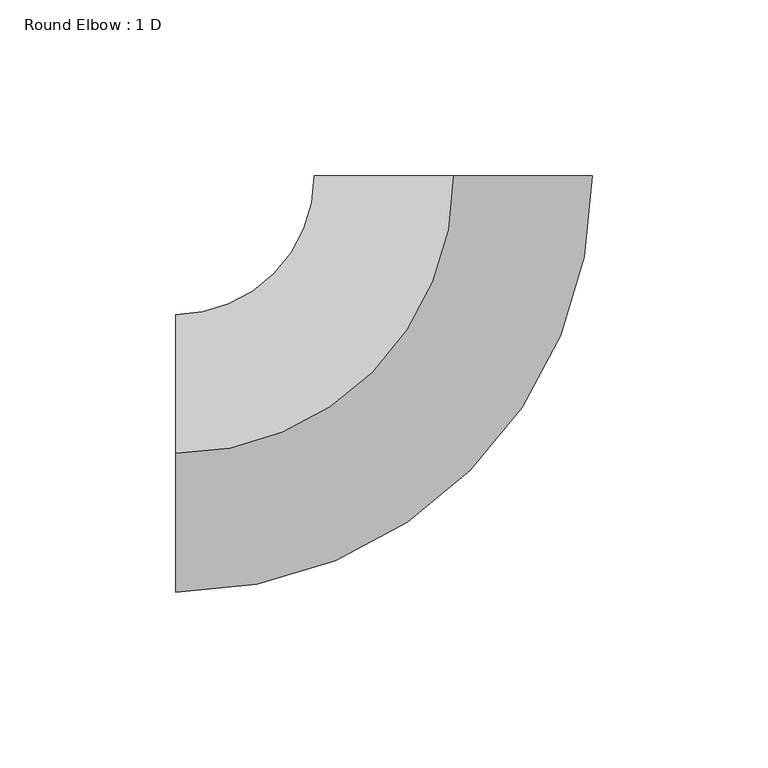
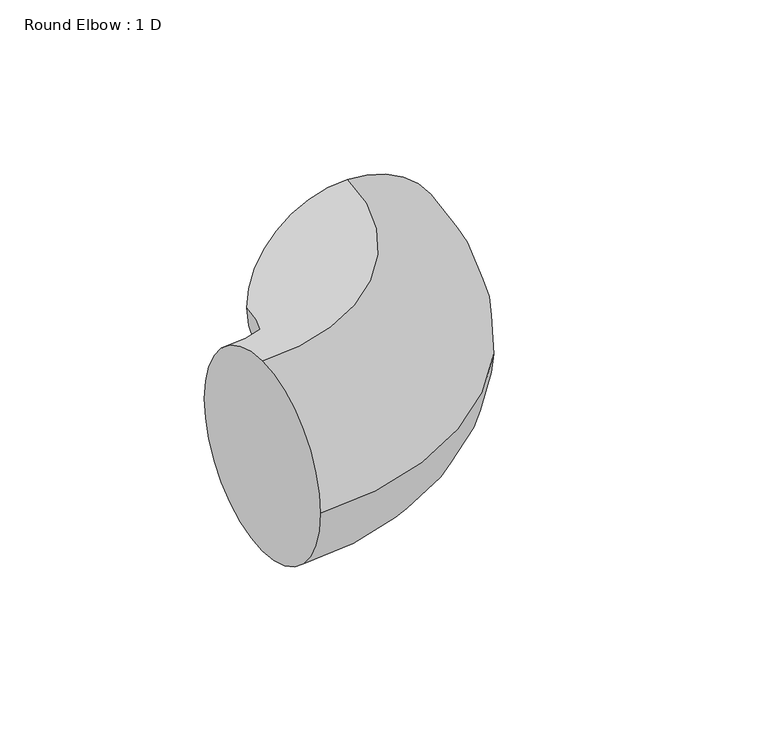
"""IFC4 building model written with IfcOpenShell, lengths in millimetres: duct fitting geometry, Round Elbow : 1 D."""

from ifc_helpers import new_model, si_unit, point, frame, origin, place, context, project, spatial, circle_curve, ellipse_curve, trimmed, source, transform, mapped, element, save
from ifc_brep_helpers import plane_surface, revolved_surface, advanced_brep


def round_elbow_1_d_8c5a454f(model_context):
    return source(origin(), model_context, "Body", "AdvancedBrep", [
        advanced_brep(
        [(-79.1765625, 0.0, 39.5882812), (-79.1765625, 39.5882812, 0.0), (-79.1765625, 0.0, -39.5882813), (-79.1765625, -39.5882813, 0.0), (0.0, 79.1765625, 39.5882812), (39.5882813, 79.1765625, 0.0), (0.0, 79.1765625, -39.5882813), (-39.5882812, 79.1765625, 0.0)],
        [
            (0, 1, circle_curve(frame((-79.1765625, 0.0, 0.0), z_axis=(-1.0, 0.0, 0.0), x_axis=(0.0, 1.0, 0.0)), 39.5882812)),
            (1, 2, circle_curve(frame((-79.1765625, 0.0, 0.0), z_axis=(-1.0, 0.0, 0.0), x_axis=(0.0, 1.0, 0.0)), 39.5882812)),
            (2, 3, circle_curve(frame((-79.1765625, 0.0, 0.0), z_axis=(-1.0, 0.0, 0.0), x_axis=(0.0, 1.0, 0.0)), 39.5882813)),
            (3, 0, circle_curve(frame((-79.1765625, 0.0, 0.0), z_axis=(-1.0, 0.0, 0.0), x_axis=(0.0, 1.0, 0.0)), 39.5882812)),
            (4, 5, circle_curve(frame((0.0, 79.1765625, 0.0), z_axis=(0.0, 1.0, 0.0), x_axis=(-1.0, 0.0, 0.0)), 39.5882812)),
            (5, 6, circle_curve(frame((0.0, 79.1765625, 0.0), z_axis=(0.0, 1.0, 0.0), x_axis=(-1.0, 0.0, 0.0)), 39.5882813)),
            (6, 7, circle_curve(frame((0.0, 79.1765625, 0.0), z_axis=(0.0, 1.0, 0.0), x_axis=(-1.0, 0.0, 0.0)), 39.5882812)),
            (7, 4, circle_curve(frame((0.0, 79.1765625, 0.0), z_axis=(0.0, 1.0, 0.0), x_axis=(-1.0, 0.0, 0.0)), 39.5882812)),
            (7, 1, circle_curve(frame((-79.1765625, 79.1765625, 0.0), z_axis=(0.0, 0.0, -1.0), x_axis=(0.0, -1.0, 0.0)), 39.5882813)),
            (0, 4, circle_curve(frame((-79.1765625, 79.1765625, 39.5882812), z_axis=(0.0, 0.0, 1.0), x_axis=(0.0, -1.0, 0.0)), 79.1765625)),
            (6, 2, circle_curve(frame((-79.1765625, 79.1765625, -39.5882813), z_axis=(0.0, 0.0, -1.0), x_axis=(0.0, -1.0, 0.0)), 79.1765625)),
            (5, 3, circle_curve(frame((-79.1765625, 79.1765625, 0.0), z_axis=(0.0, 0.0, -1.0), x_axis=(0.0, -1.0, 0.0)), 118.7648438)),
        ],
        [
            plane_surface(frame((-79.1765625, 0.0, 0.0), z_axis=(-1.0, 0.0, 0.0), x_axis=(0.0, 0.0, 1.0))),
            plane_surface(frame((0.0, 79.1765625, 0.0), z_axis=(0.0, 1.0, 0.0), x_axis=(0.0, 0.0, 1.0))),
            revolved_surface(trimmed(ellipse_curve(frame((-79.1765625, 0.0, 0.0), z_axis=(-1.0, 0.0, 0.0), x_axis=(0.0, 1.0, 0.0)), 39.5882812, 39.5882812), [point((-79.1765625, 0.0, 39.5882812))], [point((-79.1765625, 39.5882812, 0.0))], True, "CARTESIAN"), (-79.1765625, 79.1765625, 0.0), (0.0, 0.0, 1.0)),
            revolved_surface(trimmed(ellipse_curve(frame((-79.1765625, 0.0, 0.0), z_axis=(-1.0, 0.0, 0.0), x_axis=(0.0, 1.0, 0.0)), 39.5882812, 39.5882812), [point((-79.1765625, 39.5882812, 0.0))], [point((-79.1765625, 0.0, -39.5882813))], True, "CARTESIAN"), (-79.1765625, 79.1765625, 0.0), (0.0, 0.0, 1.0)),
            revolved_surface(trimmed(ellipse_curve(frame((-79.1765625, 0.0, 0.0), z_axis=(-1.0, 0.0, 0.0), x_axis=(0.0, 1.0, 0.0)), 39.5882813, 39.5882813), [point((-79.1765625, 0.0, -39.5882813))], [point((-79.1765625, -39.5882813, 0.0))], True, "CARTESIAN"), (-79.1765625, 79.1765625, 0.0), (0.0, 0.0, 1.0)),
            revolved_surface(trimmed(ellipse_curve(frame((-79.1765625, 0.0, 0.0), z_axis=(-1.0, 0.0, 0.0), x_axis=(0.0, 1.0, 0.0)), 39.5882812, 39.5882812), [point((-79.1765625, -39.5882813, 0.0))], [point((-79.1765625, 0.0, 39.5882812))], True, "CARTESIAN"), (-79.1765625, 79.1765625, 0.0), (0.0, 0.0, 1.0)),
        ],
        [
            (0, [[1, 2, 3, 4]]),
            (1, [[5, 6, 7, 8]]),
            (2, [[9, -1, 10, -8]]),
            (3, [[11, -2, -9, -7]]),
            (4, [[12, -3, -11, -6]]),
            (5, [[-10, -4, -12, -5]]),
        ],
    ),
    ])


if __name__ == "__main__":
    model = new_model("IFC4")
    model_context = context("Model", 3, world=origin())
    ifc_project = project(units=[si_unit("LENGTHUNIT", "METRE", prefix="MILLI")], contexts=[model_context])
    site = spatial("IfcSite", under=ifc_project)
    building = spatial("IfcBuilding", under=site)
    placement = place(None, origin())
    round_elbow_1_d_shape = round_elbow_1_d_8c5a454f(model_context)
    element("IfcDuctFitting", 1, ObjectType="Round Elbow : 1 D", at=placement, inside=building, context=model_context, shape_type="MappedRepresentation", body=[
        mapped(round_elbow_1_d_shape, transform((0.0, 0.0, 0.0), x_axis=(1.0, 0.0, 0.0), y_axis=(0.0, 1.0, 0.0), z_axis=(0.0, 0.0, 1.0))),
    ])
    save(model, "model.ifc")
